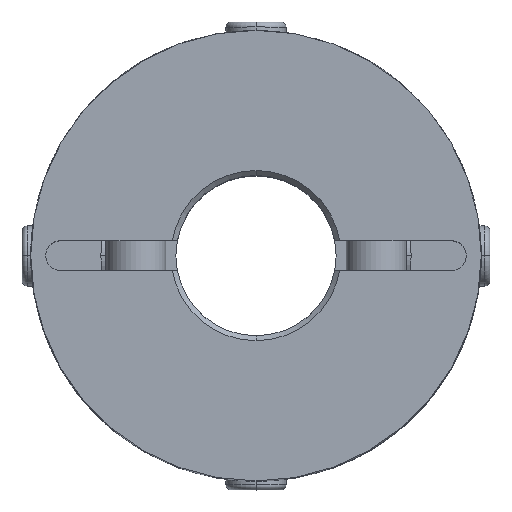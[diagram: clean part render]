
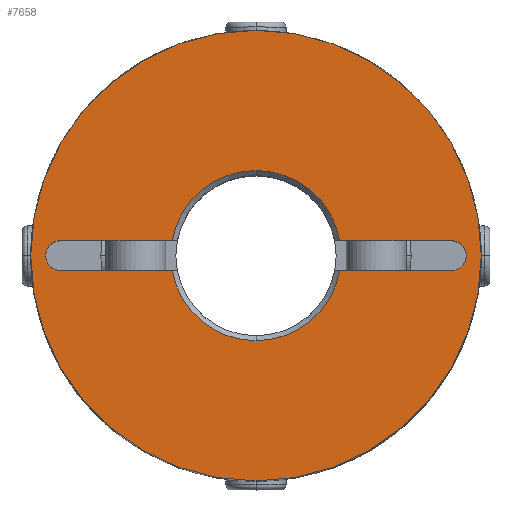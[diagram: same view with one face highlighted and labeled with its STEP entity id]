
A CAD part, top view. The second image highlights one B-rep face of the part: STEP entity #7658.
In plain terms, the highlighted planar face has unit normal (0, 0, 1).
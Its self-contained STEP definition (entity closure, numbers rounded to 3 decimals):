
#979=CARTESIAN_POINT('',(0.,22.5,22.5));
#980=VERTEX_POINT('',#979);
#987=CARTESIAN_POINT('',(0.,-22.5,22.5));
#988=VERTEX_POINT('',#987);
#989=CARTESIAN_POINT('',(0.0,0.0,22.5));
#990=DIRECTION('',(0.0,0.0,-1.0));
#991=DIRECTION('',(0.0,-1.0,0.0));
#992=AXIS2_PLACEMENT_3D('',#989,#990,#991);
#993=CIRCLE('',#992,22.5);
#994=EDGE_CURVE('',#980,#988,#993,.T.);
#1309=CARTESIAN_POINT('',(20.561,1.061,22.5));
#1310=VERTEX_POINT('',#1309);
#1326=CARTESIAN_POINT('',(19.5,-1.5,22.5));
#1327=VERTEX_POINT('',#1326);
#1334=CARTESIAN_POINT('',(19.5,0.,22.5));
#1335=DIRECTION('',(0.0,0.0,1.0));
#1336=DIRECTION('',(0.707,-0.707,0.0));
#1337=AXIS2_PLACEMENT_3D('',#1334,#1335,#1336);
#1338=CIRCLE('',#1337,1.5);
#1339=EDGE_CURVE('',#1327,#1310,#1338,.T.);
#1351=CARTESIAN_POINT('',(-20.561,-1.061,22.5));
#1352=VERTEX_POINT('',#1351);
#1368=CARTESIAN_POINT('',(-19.5,1.5,22.5));
#1369=VERTEX_POINT('',#1368);
#1376=CARTESIAN_POINT('',(-19.5,0.,22.5));
#1377=DIRECTION('',(0.0,0.0,1.0));
#1378=DIRECTION('',(-0.707,0.707,0.0));
#1379=AXIS2_PLACEMENT_3D('',#1376,#1377,#1378);
#1380=CIRCLE('',#1379,1.5);
#1381=EDGE_CURVE('',#1369,#1352,#1380,.T.);
#2105=CARTESIAN_POINT('',(0.,8.5,22.5));
#2106=VERTEX_POINT('',#2105);
#2114=CARTESIAN_POINT('',(8.367,1.5,22.5));
#2115=VERTEX_POINT('',#2114);
#2129=CARTESIAN_POINT('',(0.0,0.0,22.5));
#2130=DIRECTION('',(0.0,0.0,1.0));
#2131=DIRECTION('',(0.0,1.0,0.0));
#2132=AXIS2_PLACEMENT_3D('',#2129,#2130,#2131);
#2133=CIRCLE('',#2132,8.5);
#2134=EDGE_CURVE('',#2115,#2106,#2133,.T.);
#2144=CARTESIAN_POINT('',(0.,-8.5,22.5));
#2145=VERTEX_POINT('',#2144);
#2161=CARTESIAN_POINT('',(-8.367,-1.5,22.5));
#2162=VERTEX_POINT('',#2161);
#2176=CARTESIAN_POINT('',(0.0,0.0,22.5));
#2177=DIRECTION('',(0.0,0.0,1.0));
#2178=DIRECTION('',(0.0,-1.0,0.0));
#2179=AXIS2_PLACEMENT_3D('',#2176,#2177,#2178);
#2180=CIRCLE('',#2179,8.5);
#2181=EDGE_CURVE('',#2162,#2145,#2180,.T.);
#7396=CARTESIAN_POINT('',(19.5,1.5,22.5));
#7397=VERTEX_POINT('',#7396);
#7404=CARTESIAN_POINT('',(8.367,1.5,22.5));
#7405=DIRECTION('',(1.0,0.0,0.0));
#7406=VECTOR('',#7405,11.133);
#7407=LINE('',#7404,#7406);
#7408=EDGE_CURVE('',#2115,#7397,#7407,.T.);
#7543=CARTESIAN_POINT('',(8.367,-1.5,22.5));
#7544=VERTEX_POINT('',#7543);
#7558=CARTESIAN_POINT('',(19.5,-1.5,22.5));
#7559=DIRECTION('',(-1.0,0.0,0.0));
#7560=VECTOR('',#7559,11.133);
#7561=LINE('',#7558,#7560);
#7562=EDGE_CURVE('',#1327,#7544,#7561,.T.);
#7585=CARTESIAN_POINT('',(0.0,0.0,22.5));
#7586=DIRECTION('',(0.0,0.0,1.0));
#7587=DIRECTION('',(0.0,-1.0,0.0));
#7588=AXIS2_PLACEMENT_3D('',#7585,#7586,#7587);
#7589=CIRCLE('',#7588,8.5);
#7590=EDGE_CURVE('',#2145,#7544,#7589,.T.);
#7597=CARTESIAN_POINT('',(0.,-2.045,22.5));
#7598=DIRECTION('',(0.0,0.0,1.0));
#7599=DIRECTION('',(0.0,-1.0,0.0));
#7600=AXIS2_PLACEMENT_3D('',#7597,#7598,#7599);
#7601=PLANE('',#7600);
#7602=CARTESIAN_POINT('',(0.0,0.0,22.5));
#7603=DIRECTION('',(0.0,0.0,-1.0));
#7604=DIRECTION('',(0.0,-1.0,0.0));
#7605=AXIS2_PLACEMENT_3D('',#7602,#7603,#7604);
#7606=CIRCLE('',#7605,22.5);
#7607=EDGE_CURVE('',#988,#980,#7606,.T.);
#7608=ORIENTED_EDGE('',*,*,#7607,.F.);
#7609=ORIENTED_EDGE('',*,*,#994,.F.);
#7610=EDGE_LOOP('',(#7608,#7609));
#7611=FACE_OUTER_BOUND('',#7610,.T.);
#7612=ORIENTED_EDGE('',*,*,#2181,.F.);
#7613=CARTESIAN_POINT('',(-19.5,-1.5,22.5));
#7614=VERTEX_POINT('',#7613);
#7615=CARTESIAN_POINT('',(-8.367,-1.5,22.5));
#7616=DIRECTION('',(-1.0,0.0,0.0));
#7617=VECTOR('',#7616,11.133);
#7618=LINE('',#7615,#7617);
#7619=EDGE_CURVE('',#2162,#7614,#7618,.T.);
#7620=ORIENTED_EDGE('',*,*,#7619,.T.);
#7621=CARTESIAN_POINT('',(-19.5,0.,22.5));
#7622=DIRECTION('',(0.0,0.0,1.0));
#7623=DIRECTION('',(-0.707,0.707,0.0));
#7624=AXIS2_PLACEMENT_3D('',#7621,#7622,#7623);
#7625=CIRCLE('',#7624,1.5);
#7626=EDGE_CURVE('',#1352,#7614,#7625,.T.);
#7627=ORIENTED_EDGE('',*,*,#7626,.F.);
#7628=ORIENTED_EDGE('',*,*,#1381,.F.);
#7629=CARTESIAN_POINT('',(-8.367,1.5,22.5));
#7630=VERTEX_POINT('',#7629);
#7631=CARTESIAN_POINT('',(-19.5,1.5,22.5));
#7632=DIRECTION('',(1.0,0.0,0.0));
#7633=VECTOR('',#7632,11.133);
#7634=LINE('',#7631,#7633);
#7635=EDGE_CURVE('',#1369,#7630,#7634,.T.);
#7636=ORIENTED_EDGE('',*,*,#7635,.T.);
#7637=CARTESIAN_POINT('',(0.0,0.0,22.5));
#7638=DIRECTION('',(0.0,0.0,1.0));
#7639=DIRECTION('',(0.0,1.0,0.0));
#7640=AXIS2_PLACEMENT_3D('',#7637,#7638,#7639);
#7641=CIRCLE('',#7640,8.5);
#7642=EDGE_CURVE('',#2106,#7630,#7641,.T.);
#7643=ORIENTED_EDGE('',*,*,#7642,.F.);
#7644=ORIENTED_EDGE('',*,*,#2134,.F.);
#7645=ORIENTED_EDGE('',*,*,#7408,.T.);
#7646=CARTESIAN_POINT('',(19.5,0.,22.5));
#7647=DIRECTION('',(0.0,0.0,1.0));
#7648=DIRECTION('',(0.707,-0.707,0.0));
#7649=AXIS2_PLACEMENT_3D('',#7646,#7647,#7648);
#7650=CIRCLE('',#7649,1.5);
#7651=EDGE_CURVE('',#1310,#7397,#7650,.T.);
#7652=ORIENTED_EDGE('',*,*,#7651,.F.);
#7653=ORIENTED_EDGE('',*,*,#1339,.F.);
#7654=ORIENTED_EDGE('',*,*,#7562,.T.);
#7655=ORIENTED_EDGE('',*,*,#7590,.F.);
#7656=EDGE_LOOP('',(#7612,#7620,#7627,#7628,#7636,#7643,#7644,#7645,#7652,#7653,#7654,#7655));
#7657=FACE_BOUND('',#7656,.T.);
#7658=ADVANCED_FACE('',(#7611,#7657),#7601,.T.);
